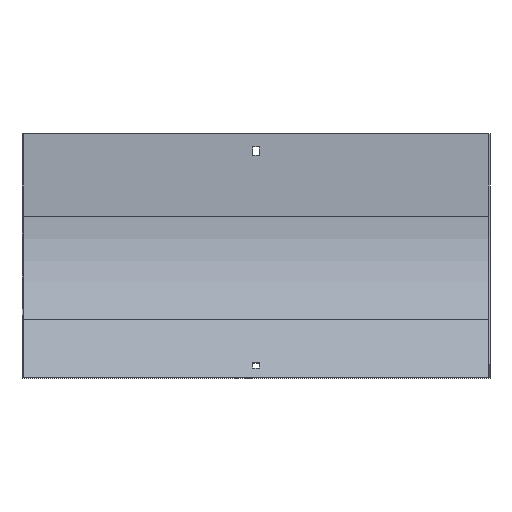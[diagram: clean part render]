
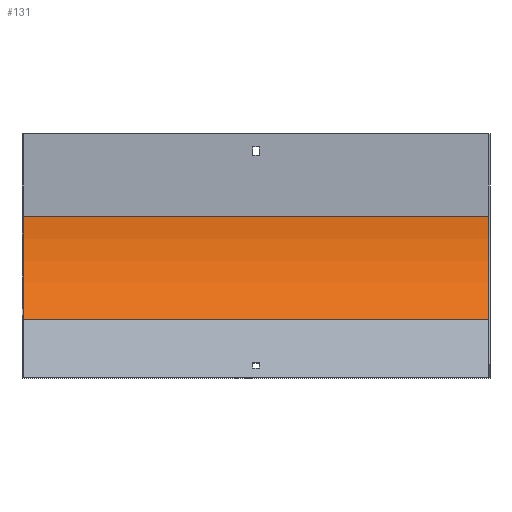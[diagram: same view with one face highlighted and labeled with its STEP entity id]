
A CAD part, front view. The second image highlights one B-rep face of the part: STEP entity #131.
In plain terms, the highlighted cylindrical face has radius 125 mm (diameter 250 mm), a partial arc.
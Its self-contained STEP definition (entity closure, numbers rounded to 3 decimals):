
#27 = DIRECTION ( 'NONE',  ( 0., 0., 1. ) ) ;
#44 = VERTEX_POINT ( 'NONE', #550 ) ;
#81 = DIRECTION ( 'NONE',  ( -1., 0., 0. ) ) ;
#82 = CARTESIAN_POINT ( 'NONE',  ( 200., -37.612, -159.388 ) ) ;
#108 = VERTEX_POINT ( 'NONE', #728 ) ;
#128 = CIRCLE ( 'NONE', #838, 125. ) ;
#131 = ADVANCED_FACE ( 'NONE', ( #485 ), #731, .F. ) ;
#155 = VERTEX_POINT ( 'NONE', #268 ) ;
#214 = ORIENTED_EDGE ( 'NONE', *, *, #507, .T. ) ;
#215 = EDGE_CURVE ( 'NONE', #848, #155, #539, .T. ) ;
#219 = ORIENTED_EDGE ( 'NONE', *, *, #650, .T. ) ;
#242 = CARTESIAN_POINT ( 'NONE',  ( 200., -126., -71. ) ) ;
#251 = ORIENTED_EDGE ( 'NONE', *, *, #484, .F. ) ;
#268 = CARTESIAN_POINT ( 'NONE',  ( -200., -37.612, -159.388 ) ) ;
#337 = DIRECTION ( 'NONE',  ( 0., 0., 1. ) ) ;
#385 = VECTOR ( 'NONE', #608, 1000. ) ;
#416 = AXIS2_PLACEMENT_3D ( 'NONE', #673, #81, #337 ) ;
#458 = CARTESIAN_POINT ( 'NONE',  ( -200., -126., -71. ) ) ;
#484 = EDGE_CURVE ( 'NONE', #155, #108, #128, .T. ) ;
#485 = FACE_OUTER_BOUND ( 'NONE', #694, .T. ) ;
#493 = VECTOR ( 'NONE', #725, 1000. ) ;
#507 = EDGE_CURVE ( 'NONE', #848, #44, #787, .T. ) ;
#539 = LINE ( 'NONE', #806, #385 ) ;
#550 = CARTESIAN_POINT ( 'NONE',  ( 200., -1., -71. ) ) ;
#576 = CARTESIAN_POINT ( 'NONE',  ( 201., -1., -71. ) ) ;
#592 = DIRECTION ( 'NONE',  ( 1., 0., 0. ) ) ;
#608 = DIRECTION ( 'NONE',  ( -1., 0., 0. ) ) ;
#650 = EDGE_CURVE ( 'NONE', #44, #108, #860, .T. ) ;
#673 = CARTESIAN_POINT ( 'NONE',  ( 201., -126., -71. ) ) ;
#694 = EDGE_LOOP ( 'NONE', ( #251, #708, #214, #219 ) ) ;
#708 = ORIENTED_EDGE ( 'NONE', *, *, #215, .F. ) ;
#717 = AXIS2_PLACEMENT_3D ( 'NONE', #242, #775, #27 ) ;
#725 = DIRECTION ( 'NONE',  ( -1., 0., 0. ) ) ;
#728 = CARTESIAN_POINT ( 'NONE',  ( -200., -1., -71. ) ) ;
#731 = CYLINDRICAL_SURFACE ( 'NONE', #416, 125. ) ;
#775 = DIRECTION ( 'NONE',  ( 1., 0., 0. ) ) ;
#787 = CIRCLE ( 'NONE', #717, 125. ) ;
#806 = CARTESIAN_POINT ( 'NONE',  ( 201., -37.612, -159.388 ) ) ;
#838 = AXIS2_PLACEMENT_3D ( 'NONE', #458, #592, #853 ) ;
#848 = VERTEX_POINT ( 'NONE', #82 ) ;
#853 = DIRECTION ( 'NONE',  ( 0., 0., 1. ) ) ;
#860 = LINE ( 'NONE', #576, #493 ) ;
